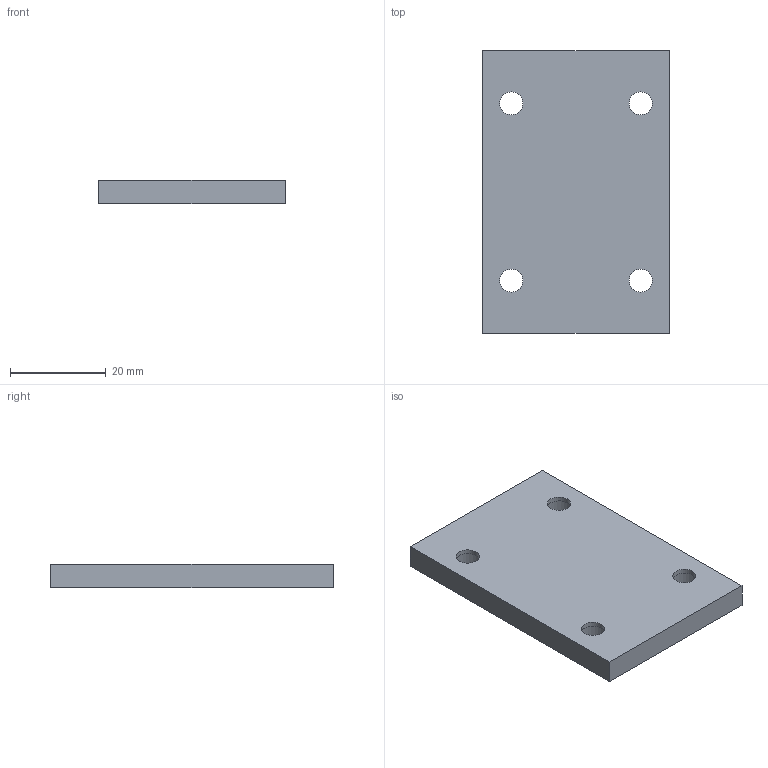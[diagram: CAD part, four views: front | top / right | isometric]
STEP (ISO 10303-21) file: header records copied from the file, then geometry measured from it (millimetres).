
FILE_DESCRIPTION(/* description */ ('Unknown'),/* implementation_level */ '2;1');
FILE_NAME(/* name */ 'Gehaeuse_Not-Aus_Unterteil',/* time_stamp */ '2024-05-16T15:16:39+02:00',/* author */ ('Unknown'),/* organization */ ('Unknown'),/* preprocessor_version */ 'ST-DEVELOPER v18.1',/* originating_system */ 'Solid Edge',/* authorisation */ 'Unknown');
FILE_SCHEMA (('AUTOMOTIVE_DESIGN {1 0 10303 214 3 1 1}'));
Length unit declared in the file: millimetre
Products named in the file (1): Gehaeuse_Unterteil
Bounding box: 39 x 59 x 5 mm (x, y, z)
Volume: 10628.4 mm3; surface area: 5899.7 mm2
Topology: 1 solids, 1 shells, 18 faces, 40 edges, 28 vertices
Faces by surface type: plane 10, cylinder 8
Full cylindrical faces by diameter (mm): 4.8 x4, 8 x4
Entity records: 482 total; most frequent: DIRECTION 82, CARTESIAN_POINT 71, ORIENTED_EDGE 56, EDGE_LOOP 38, FACE_BOUND 38, AXIS2_PLACEMENT_3D 35, EDGE_CURVE 28, VERTEX_POINT 24
